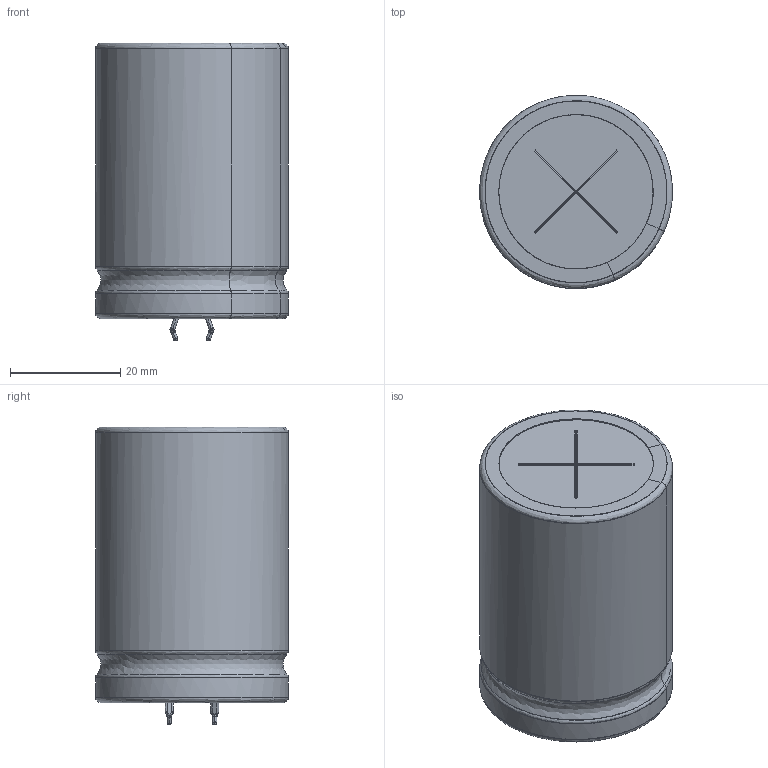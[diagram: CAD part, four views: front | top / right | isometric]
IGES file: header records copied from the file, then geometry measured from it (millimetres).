
Start section: JAMA-IS VERSION  1.0
Bounding box: 35 x 35 x 54.02 mm (x, y, z)
Surface area: 19652.4 mm2 (no closed solid volume)
Topology: 0 solids, 0 shells, 208 faces, 2354 edges, 2318 vertices
Faces by surface type: bspline 208
